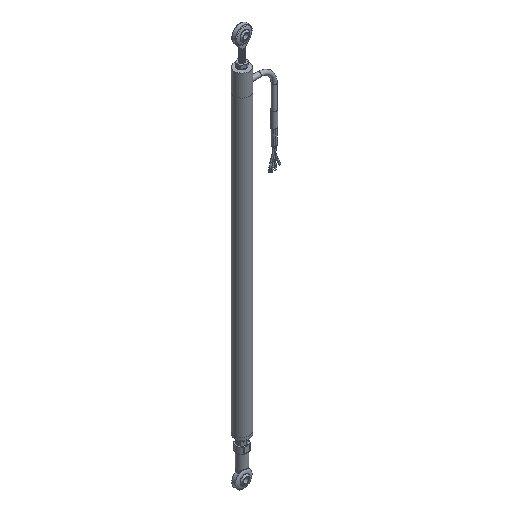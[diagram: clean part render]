
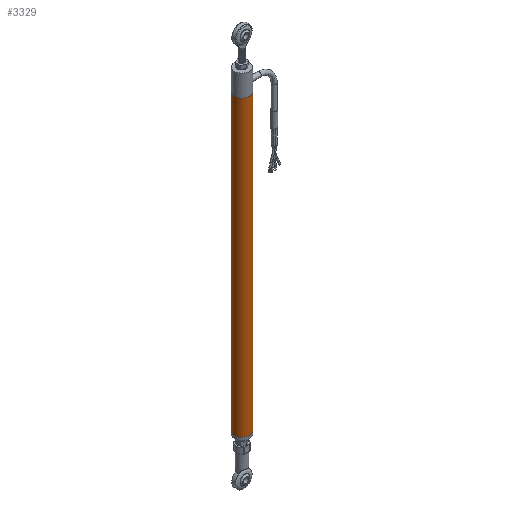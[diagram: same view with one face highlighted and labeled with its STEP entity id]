
A CAD part, isometric view. The second image highlights one B-rep face of the part: STEP entity #3329.
In plain terms, the highlighted cylindrical face has radius 6.35 mm (diameter 12.7 mm), a full revolution.
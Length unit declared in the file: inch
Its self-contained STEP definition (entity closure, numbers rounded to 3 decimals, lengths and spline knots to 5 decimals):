
#248=LINE('',#8165,#453);
#453=VECTOR('',#4234,0.25);
#633=CYLINDRICAL_SURFACE('',#3719,0.25);
#744=FACE_OUTER_BOUND('',#956,.T.);
#956=EDGE_LOOP('',(#2470,#2471,#2472,#2473,#2474));
#1140=CIRCLE('',#3711,0.25);
#1142=CIRCLE('',#3717,0.25);
#1143=CIRCLE('',#3718,0.25);
#1463=VERTEX_POINT('',#8108);
#1468=VERTEX_POINT('',#8159);
#1469=VERTEX_POINT('',#8161);
#1826=EDGE_CURVE('',#1463,#1463,#1140,.T.);
#1833=EDGE_CURVE('',#1469,#1468,#1142,.T.);
#1834=EDGE_CURVE('',#1468,#1469,#1143,.T.);
#1835=EDGE_CURVE('',#1463,#1469,#248,.T.);
#2470=ORIENTED_EDGE('',*,*,#1826,.F.);
#2471=ORIENTED_EDGE('',*,*,#1835,.T.);
#2472=ORIENTED_EDGE('',*,*,#1833,.T.);
#2473=ORIENTED_EDGE('',*,*,#1834,.T.);
#2474=ORIENTED_EDGE('',*,*,#1835,.F.);
#3329=ADVANCED_FACE('',(#744),#633,.T.);
#3711=AXIS2_PLACEMENT_3D('',#8110,#4214,#4215);
#3717=AXIS2_PLACEMENT_3D('',#8162,#4228,#4229);
#3718=AXIS2_PLACEMENT_3D('',#8163,#4230,#4231);
#3719=AXIS2_PLACEMENT_3D('',#8164,#4232,#4233);
#4214=DIRECTION('center_axis',(0.,0.,-1.));
#4215=DIRECTION('ref_axis',(-1.,0.,0.));
#4228=DIRECTION('center_axis',(0.,0.,-1.));
#4229=DIRECTION('ref_axis',(-1.,0.,0.));
#4230=DIRECTION('center_axis',(0.,0.,-1.));
#4231=DIRECTION('ref_axis',(-1.,0.,0.));
#4232=DIRECTION('center_axis',(0.,0.,-1.));
#4233=DIRECTION('ref_axis',(-1.,0.,0.));
#4234=DIRECTION('',(0.,0.,1.));
#8108=CARTESIAN_POINT('',(0.25,0.,-10.22835));
#8110=CARTESIAN_POINT('Origin',(0.,0.,-10.22835));
#8159=CARTESIAN_POINT('',(-0.25,0.,-0.7));
#8161=CARTESIAN_POINT('',(0.25,0.,-0.7));
#8162=CARTESIAN_POINT('Origin',(0.,0.,-0.7));
#8163=CARTESIAN_POINT('Origin',(0.,0.,-0.7));
#8164=CARTESIAN_POINT('Origin',(0.,0.,0.));
#8165=CARTESIAN_POINT('',(0.25,0.,0.));
